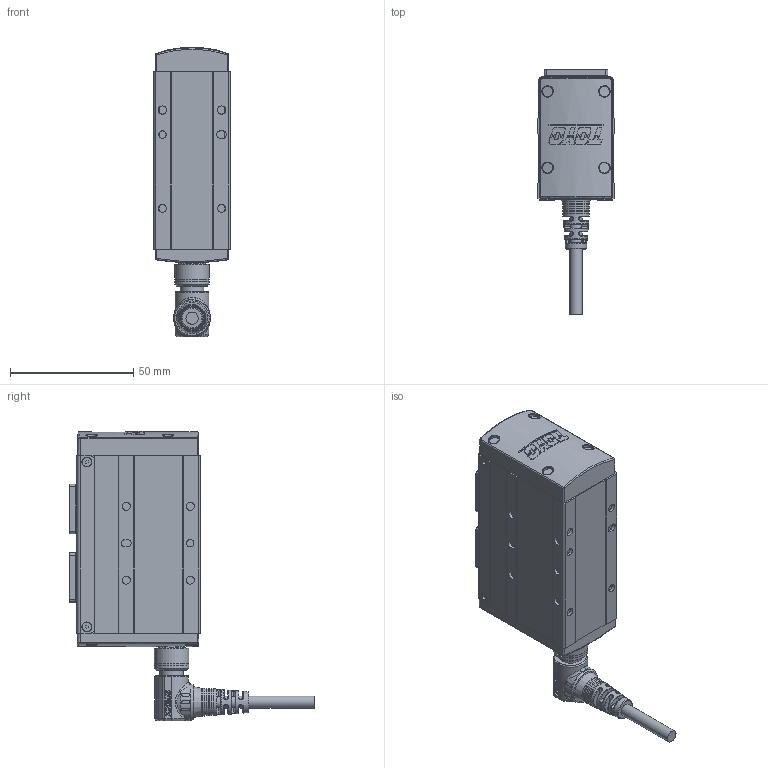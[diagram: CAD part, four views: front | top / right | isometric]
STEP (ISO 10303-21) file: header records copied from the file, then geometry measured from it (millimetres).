
FILE_DESCRIPTION(/* description */ ('STEP AP214'),/* implementation_level */ '2;1');
FILE_NAME(/* name */ 'D:\2025.02.25 帶電匯整給泊舟\3. CHS2系列\CHS2B-S20-WW.stp',/* time_stamp */ '2025-02-25T17:34:01+08:00',/* author */ ('T10033'),/* organization */ (''),/* preprocessor_version */ 'ST-DEVELOPER v18.1',/* originating_system */ 'Autodesk Inventor 2020',/* authorisation */ '');
FILE_SCHEMA (('CONFIG_CONTROL_DESIGN'));
Products named in the file (8): CHS2B-S20; 22012-000289_M2L6內六角; 12004-000153-02; 22013-000052_徑3L5定位銷; 22012-001387_M2.5L6內六角; 慶陞M12金屬頭; T34WTYWS34T_Shrinkwrap_1; M12-14PIN 線端90度接頭-05中繼線
Assembly tree (15 placements, depth 2):
  CHS2B-S20
    22012-000289_M2L6內六角  x2
    12004-000153-02  x2
    22013-000052_徑3L5定位銷  x4
    22012-001387_M2.5L6內六角  x4
    慶陞M12金屬頭
    T34WTYWS34T_Shrinkwrap_1
    M12-14PIN 線端90度接頭-05中繼線
Bounding box: 31 x 99.45 x 117.52 mm (x, y, z)
Volume: 130460.4 mm3; surface area: 30680.3 mm2
Topology: 29 solids, 34 shells, 2248 faces, 6217 edges, 4167 vertices
Faces by surface type: plane 1099, cylinder 482, cone 414, bspline 157, torus 92, sphere 4
Full cylindrical faces by diameter (mm): 0.6 x14, 0.65 x14, 1 x14, 2 x30, 2.5 x52, 2.6 x4, 3 x11, 3.3 x12, 3.8 x6, 4.5 x4, 4.8 x4, 5 x1, 8 x1, 8.9 x1, 9.5 x2, 9.6 x1, 10.5 x2, 10.9 x1, 11 x2, 11.2 x1, 11.25 x1, 12 x1, 13 x1, 13.8 x1, 14 x2, 14.4 x1, 16.482 x1
Entity records: 94384 total; most frequent: CARTESIAN_POINT 41793, ORIENTED_EDGE 10706, DIRECTION 10558, EDGE_CURVE 5371, AXIS2_PLACEMENT_3D 3961, VERTEX_POINT 3590, LINE 2636, VECTOR 2636
